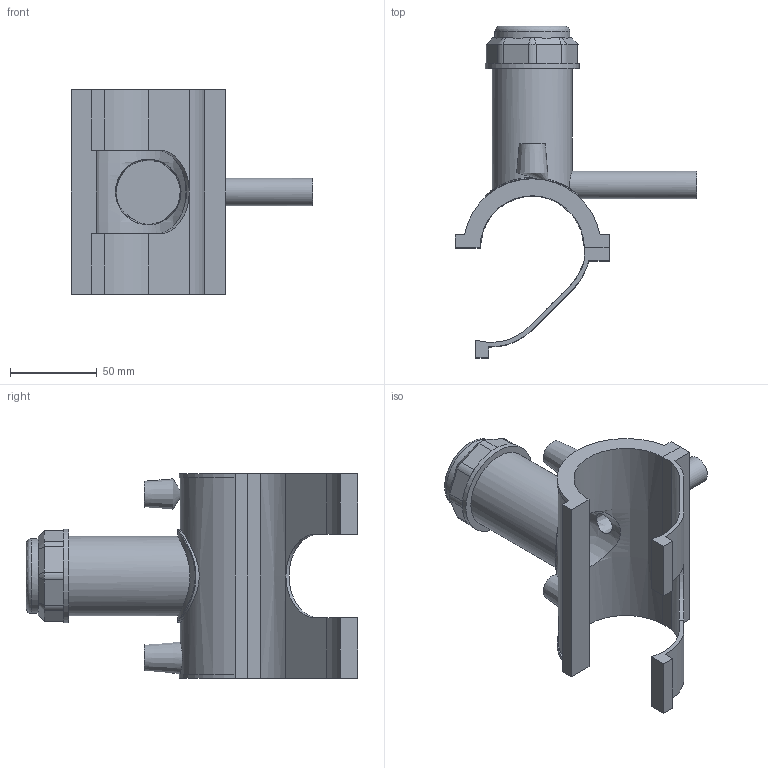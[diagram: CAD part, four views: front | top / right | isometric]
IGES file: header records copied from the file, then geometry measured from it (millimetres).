
Global section: file name: 5963BU03020005.ipt; native system: Autodesk Inventor 2019; preprocessor: unknown; author: KIM; date: 20210830.101442; units: millimetre
Bounding box: 139.45 x 191.49 x 118.11 mm (x, y, z)
Volume: 243892.9 mm3; surface area: 87709.1 mm2
Topology: 3 solids, 3 shells, 106 faces, 263 edges, 172 vertices
Faces by surface type: plane 63, cylinder 22, revolution 10, cone 10, bspline 1
Full cylindrical faces by diameter (mm): 4 x2, 15.8 x1, 43.272 x1, 45.977 x1, 54.09 x2
